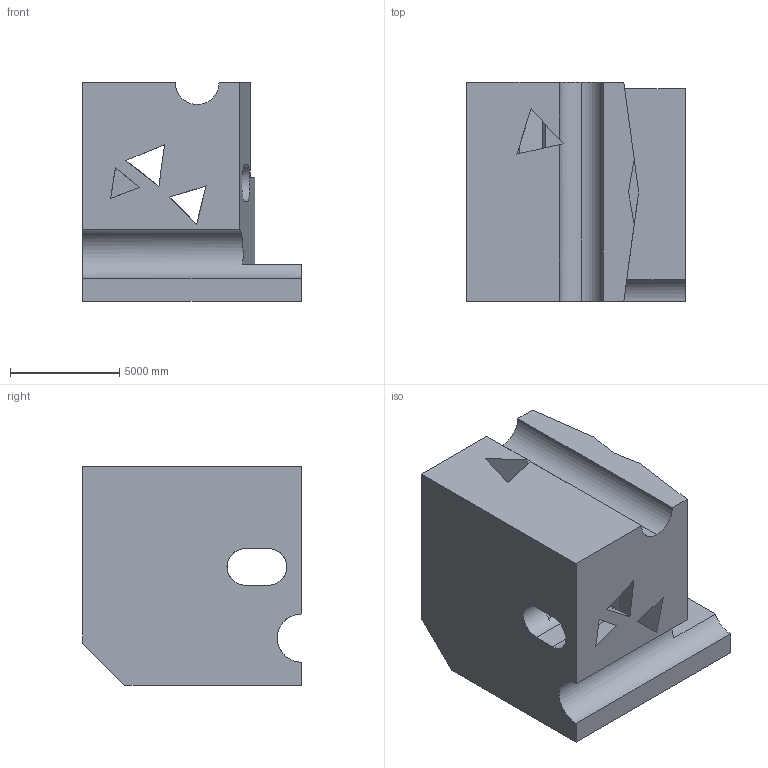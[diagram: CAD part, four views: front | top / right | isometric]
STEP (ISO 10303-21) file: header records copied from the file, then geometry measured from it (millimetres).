
FILE_DESCRIPTION (( 'STEP AP203' ), '1' );
FILE_NAME ('1914.STEP', '2022-08-23T09:25:40', ( 'user' ), ( '' ), 'SwSTEP 2.0', 'SolidWorks 2021', '' );
FILE_SCHEMA (( 'CONFIG_CONTROL_DESIGN' ));
Length unit declared in the file: centimetre
Products named in the file (1): 1914
Bounding box: 10000 x 10000 x 10000 mm (x, y, z)
Volume: 673273149272.5 mm3; surface area: 723206811.2 mm2
Topology: 1 solids, 1 shells, 45 faces, 141 edges, 94 vertices
Faces by surface type: plane 40, cylinder 5
Entity records: 1648 total; most frequent: CARTESIAN_POINT 344, ORIENTED_EDGE 282, DIRECTION 220, EDGE_CURVE 141, LINE 112, VECTOR 112, VERTEX_POINT 94, EDGE_LOOP 55
